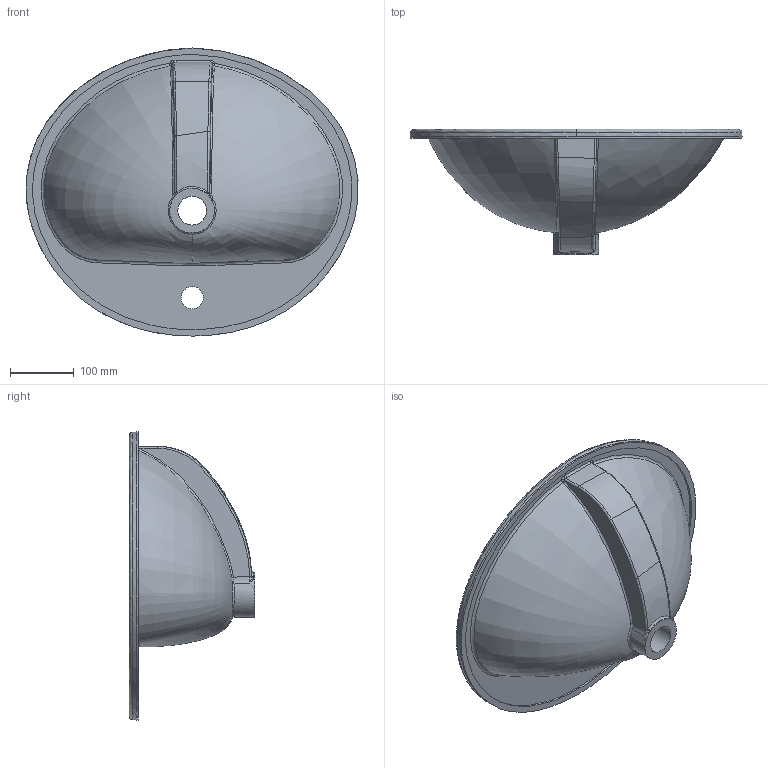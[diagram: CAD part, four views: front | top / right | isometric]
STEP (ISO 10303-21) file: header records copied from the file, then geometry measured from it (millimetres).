
FILE_DESCRIPTION (( 'STEP AP203' ), '1' );
FILE_NAME ('TP225.STEP', '2022-04-21T11:24:21', ( '' ), ( '' ), 'SwSTEP 2.0', 'SolidWorks 2021', '' );
FILE_SCHEMA (( 'CONFIG_CONTROL_DESIGN' ));
Products named in the file (1): TP225
Bounding box: 519.49 x 196 x 450.81 mm (x, y, z)
Volume: 3428896.8 mm3; surface area: 562864.8 mm2
Topology: 1 solids, 1 shells, 87 faces, 223 edges, 135 vertices
Faces by surface type: bspline 50, plane 19, cylinder 15, cone 2, torus 1
Entity records: 57751 total; most frequent: CARTESIAN_POINT 55962, ORIENTED_EDGE 442, DIRECTION 228, EDGE_CURVE 221, VERTEX_POINT 135, B_SPLINE_CURVE_WITH_KNOTS 115, EDGE_LOOP 98, AXIS2_PLACEMENT_3D 92
